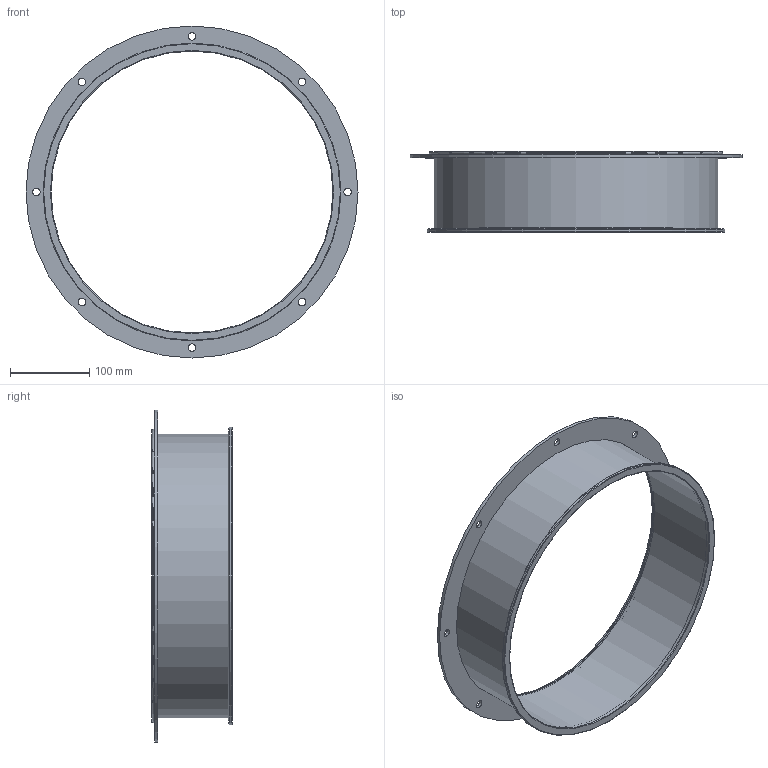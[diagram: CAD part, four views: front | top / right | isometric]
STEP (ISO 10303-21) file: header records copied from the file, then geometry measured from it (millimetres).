
FILE_DESCRIPTION(/* description */ (''),/* implementation_level */ '2;1');
FILE_NAME(/* name */ 'METU_EA107-41B_355_L100.stp',/* time_stamp */ '2018-10-10T11:43:24+02:00',/* author */ (''),/* organization */ (''),/* preprocessor_version */ 'ST-DEVELOPER v11',/* originating_system */ 'SIEMENS UGS NX 6.0',/* authorisation */ '');
FILE_SCHEMA (('CONFIG_CONTROL_DESIGN'));
Length unit declared in the file: millimetre
Products named in the file (1): garsCF17ddtl
Bounding box: 418 x 101.5 x 418 mm (x, y, z)
Volume: 309121.3 mm3; surface area: 372863.7 mm2
Topology: 3 solids, 3 shells, 32 faces, 76 edges, 53 vertices
Faces by surface type: cylinder 17, plane 9, torus 5, cone 1
Full cylindrical faces by diameter (mm): 9.5 x8, 355 x2, 356.6 x2, 358 x1, 366.6 x2, 375 x1, 418 x1
Entity records: 850 total; most frequent: DIRECTION 146, CARTESIAN_POINT 113, FACE_BOUND 80, EDGE_LOOP 80, ORIENTED_EDGE 80, AXIS2_PLACEMENT_3D 73, VERTEX_POINT 40, EDGE_CURVE 40
